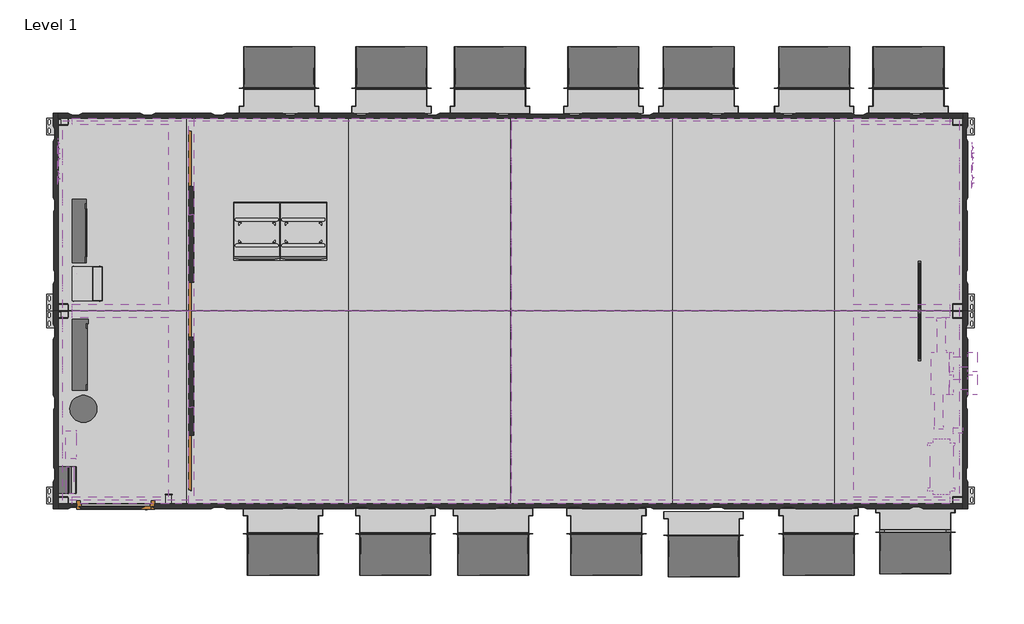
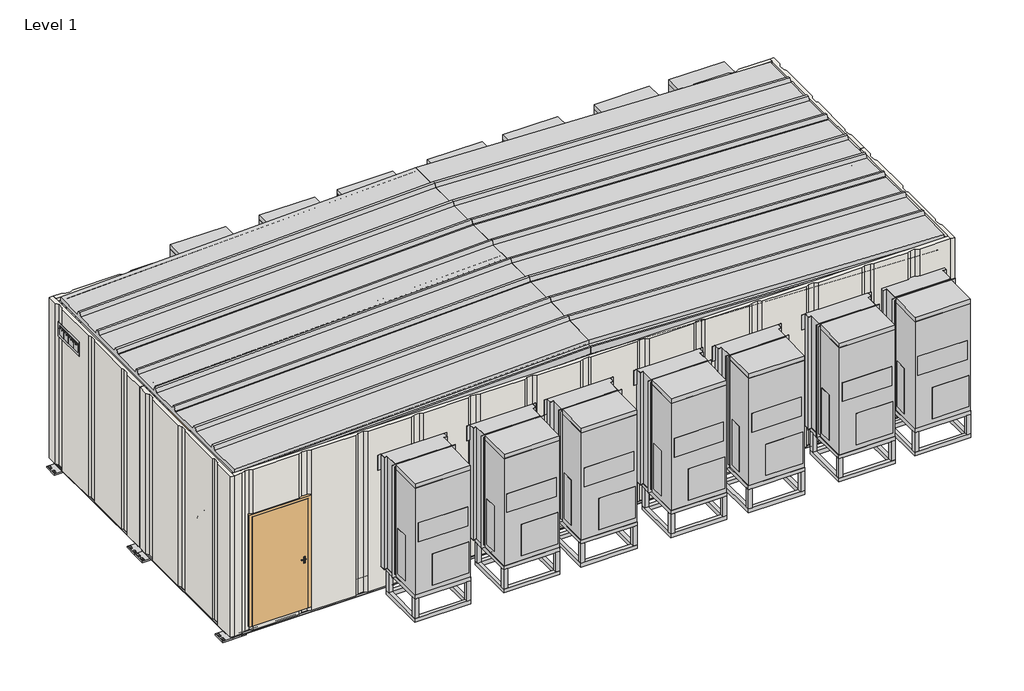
# One storey, incomplete: 33 proxies, 12 walls, 6 beams, 5 doors, 1 alarm.
"""IFC4 building model written with IfcOpenShell, lengths in millimetres."""

from ifc_helpers import new_model, si_unit, origin, place, context, project, spatial, transform, mapped, element, save
from components import cylinder_16_cylinder_16_b4ece049, beam_5c8516a7, beam_2e7830ee, beam_ccb9a7fa, roof_100kw_roof_100kw_9b547386, roof_100kw_roof_100kw_5ecf8ffd, roof_support1_roof_support1_f017d751, electrical_equipment_6561f704, electrical_equipment_92dd933f, electrical_equipment_2ad6ca1a, electrical_equipment_4dcd70bd, mechanical_equipment_66c16102, mechanical_equipment_370b5d70, mechanical_equipment_16baf98c, mechanical_equipment_ff092b0d, proxy_120v_outlet_120v_outlet_fd853791, proxy_120v_outlet_120v_outlet_3833eafb, cp_100_control_panel_b2e4bc5f, climate_control_climate_control_4ab677a5, e2m_access_control_panel_e2m_access_control_panel_2f39fd12, fire_alarm_control_panel_b452572c, generator_annunciator_panel_eb6c5e21, i_line_power_distribution_panel_board_enclosure_bd4550be, i_line_power_distribution_panel_board_enclosure_2e56ea56, modular_battery_cabinet_wide_c1eef21c, type_1_93768ecd, type_1_ab716bc1, type_1_70e9cce0, type_1_70f3e7dd, door_5ed18baa, door_f1603644, default_e111a01f, walls_1_walls_2_f8d973cd, walls_10_walls_2_f5bd905f, walls_11_walls_2_229b7b54, walls_12_walls_2_642f7b6c, walls_2_walls_2_6d3ed5f8, walls_3_walls_2_6919044b, walls_5_walls_2_f4ec63fe, walls_7_walls_2_4189c416, walls_8_walls_2_894dc8dd, walls_9_walls_2_d23d17f2

model = new_model("IFC4")

# Units and contexts
model_context = context("Model", 3, world=origin())
ifc_project = project(units=[si_unit("LENGTHUNIT", "METRE", prefix="MILLI")], contexts=[model_context])

# Site, building, storey
site = spatial("IfcSite", under=ifc_project)
building = spatial("IfcBuilding", under=site)
storey = spatial("IfcBuildingStorey", under=building, Name="Level 1", Elevation=0.0)

# Alarm
placement = place(None, origin())
cylinder_16_cylinder_16_shape = cylinder_16_cylinder_16_b4ece049(model_context)
element("IfcAlarm", 1, ObjectType="Cylinder_16 : Cylinder_16", at=placement, inside=storey, context=model_context, shape_type="MappedRepresentation", body=[
    mapped(cylinder_16_cylinder_16_shape, transform((5831.1164082, 3581.3058616, 34.3988025), x_axis=(1.0, 0.0, 0.0), y_axis=(0.0, 1.0, 0.0), z_axis=(0.0, 0.0, 1.0))),
])

# Beams
beam_shape = beam_5c8516a7(model_context)
beam_2_shape = beam_2e7830ee(model_context)
beam_3_shape = beam_ccb9a7fa(model_context)
element("IfcBeam", 2, ObjectType="Container_Frame1_Revised : Container_Frame1_Revised", at=placement, inside=storey, context=model_context, shape_type="MappedRepresentation", body=[
    mapped(beam_shape, transform((12256.3164082, 5031.8127887, 0.0), x_axis=(1.0, 0.0, 0.0), y_axis=(0.0, 1.0, 0.0), z_axis=(0.0, 0.0, 1.0))),
    mapped(beam_2_shape, transform((12256.3164082, 5031.8127887, 0.0), x_axis=(1.0, 0.0, 0.0), y_axis=(0.0, 1.0, 0.0), z_axis=(0.0, 0.0, 1.0))),
    mapped(beam_3_shape, transform((12256.3164082, 5031.8127887, 0.0), x_axis=(1.0, 0.0, 0.0), y_axis=(0.0, 1.0, 0.0), z_axis=(0.0, 0.0, 1.0))),
])
element("IfcBeam", 3, ObjectType="Container_Frame1_Revised : Container_Frame1_Revised", at=placement, inside=storey, context=model_context, shape_type="MappedRepresentation", body=[
    mapped(beam_shape, transform((12256.3164082, 7931.8127887, 0.0), x_axis=(1.0, 0.0, 0.0), y_axis=(0.0, 1.0, 0.0), z_axis=(0.0, 0.0, 1.0))),
    mapped(beam_2_shape, transform((12256.3164082, 7931.8127887, 0.0), x_axis=(1.0, 0.0, 0.0), y_axis=(0.0, 1.0, 0.0), z_axis=(0.0, 0.0, 1.0))),
    mapped(beam_3_shape, transform((12256.3164082, 7931.8127887, 0.0), x_axis=(1.0, 0.0, 0.0), y_axis=(0.0, 1.0, 0.0), z_axis=(0.0, 0.0, 1.0))),
])
roof_100kw_roof_100kw_shape = roof_100kw_roof_100kw_9b547386(model_context)
element("IfcBeam", 4, ObjectType="Roof_100kW : Roof_100kW", at=placement, inside=storey, context=model_context, shape_type="MappedRepresentation", body=[
    mapped(roof_100kw_roof_100kw_shape, transform((12264.2164082, 4967.1069181, 91.3512814), x_axis=(1.0, 0.0, 0.0), y_axis=(0.0, 1.0, 0.0), z_axis=(0.0, 0.0, 1.0))),
])
roof_100kw_roof_100kw_2_shape = roof_100kw_roof_100kw_5ecf8ffd(model_context)
element("IfcBeam", 5, ObjectType="Roof_100kW : Roof_100kW", at=placement, inside=storey, context=model_context, shape_type="MappedRepresentation", body=[
    mapped(roof_100kw_roof_100kw_2_shape, transform((12264.4164082, 4967.1069181, 91.3512814), x_axis=(-1.0, 0.0, 0.0), y_axis=(0.0, -1.0, 0.0), z_axis=(0.0, 0.0, 1.0))),
])
roof_support1_roof_support1_shape = roof_support1_roof_support1_f017d751(model_context)
element("IfcBeam", 6, ObjectType="Roof_support1 : Roof_support1", at=placement, inside=storey, context=model_context, shape_type="MappedRepresentation", body=[
    mapped(roof_support1_roof_support1_shape, transform((12264.3164082, 5031.8127887, 0.0), x_axis=(1.0, 0.0, 0.0), y_axis=(0.0, 1.0, 0.0), z_axis=(0.0, 0.0, 1.0))),
])
element("IfcBeam", 7, ObjectType="Roof_support1 : Roof_support1", at=placement, inside=storey, context=model_context, shape_type="MappedRepresentation", body=[
    mapped(roof_support1_roof_support1_shape, transform((12264.3164082, 7931.8190632, 0.0), x_axis=(1.0, 0.0, 0.0), y_axis=(0.0, 1.0, 0.0), z_axis=(0.0, 0.0, 1.0))),
])

# Proxies
electrical_equipment_shape = electrical_equipment_6561f704(model_context)
electrical_equipment_2_shape = electrical_equipment_92dd933f(model_context)
electrical_equipment_3_shape = electrical_equipment_2ad6ca1a(model_context)
element("IfcBuildingElementProxy", 8, Name="TRF2 - 480V-208Vor 120V_ Step_down_transformer_BIM_Model : TRF2 - 480V-208Vor 120V_ Step_down_transformer_BIM_Model", ObjectType="TRF2 - 480V-208Vor 120V_ Step_down_transformer_BIM_Model : TRF2 - 480V-208Vor 120V_ Step_down_transformer_BIM_Model", at=placement, inside=storey, context=model_context, shape_type="MappedRepresentation", body=[
    mapped(electrical_equipment_shape, transform((5885.7968853, 5462.8209707, 336.5252864), x_axis=(0.0, 1.0000000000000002, 0.0), y_axis=(-1.0000000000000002, 0.0, 0.0), z_axis=(0.0, 0.0, 1.0))),
    mapped(electrical_equipment_2_shape, transform((5885.7968853, 5462.8209707, 336.5252864), x_axis=(0.0, 1.0000000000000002, 0.0), y_axis=(-1.0000000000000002, 0.0, 0.0), z_axis=(0.0, 0.0, 1.0))),
    mapped(electrical_equipment_3_shape, transform((5885.7968853, 5462.8209707, 336.5252864), x_axis=(0.0, 1.0000000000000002, 0.0), y_axis=(-1.0000000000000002, 0.0, 0.0), z_axis=(0.0, 0.0, 1.0))),
])
electrical_equipment_4_shape = electrical_equipment_4dcd70bd(model_context)
element("IfcBuildingElementProxy", 9, Name="Distribution_Sockets_2 : Distribution_Sockets_2", ObjectType="Distribution_Sockets_2 : Distribution_Sockets_2", at=placement, inside=storey, context=model_context, shape_type="MappedRepresentation", body=[
    mapped(electrical_equipment_4_shape, transform((19137.2794744, 7210.0771904, 2931.7817165), x_axis=(1.0, 0.0, 0.0), y_axis=(0.0, 1.0, 0.0), z_axis=(0.0, 0.0, 1.0))),
])
element("IfcBuildingElementProxy", 10, Name="Distribution_Sockets_2 : Distribution_Sockets_2", ObjectType="Distribution_Sockets_2 : Distribution_Sockets_2", at=placement, inside=storey, context=model_context, shape_type="MappedRepresentation", body=[
    mapped(electrical_equipment_4_shape, transform((5386.6323275, 7272.5917434, 2960.3752741), x_axis=(1.0, 0.0, 0.0), y_axis=(0.0, 1.0, 0.0), z_axis=(0.0, 0.0, 1.0))),
])
mechanical_equipment_shape = mechanical_equipment_66c16102(model_context)
element("IfcBuildingElementProxy", 11, Name="Dehumidifier2 : Dehumidifier2", ObjectType="Dehumidifier2 : Dehumidifier2", at=placement, inside=storey, context=model_context, shape_type="MappedRepresentation", body=[
    mapped(mechanical_equipment_shape, transform((18943.2323917, 2708.1721908, 2500.0), x_axis=(0.0, 1.0, 0.0), y_axis=(-1.0, 0.0, 0.0), z_axis=(0.0, 0.0, 1.0))),
])
mechanical_equipment_2_shape = mechanical_equipment_370b5d70(model_context)
mechanical_equipment_3_shape = mechanical_equipment_16baf98c(model_context)
element("IfcBuildingElementProxy", 12, Name="config9_Ccontainment_1 : config9_Ccontainment_1", ObjectType="config9_Ccontainment_1 : config9_Ccontainment_1", at=placement, inside=storey, context=model_context, shape_type="MappedRepresentation", body=[
    mapped(mechanical_equipment_2_shape, transform((12254.5549624, 5676.0200515, 68.4152043), x_axis=(1.0, 0.0, 0.0), y_axis=(0.0, 1.0, 0.0), z_axis=(0.0, 0.0, 1.0))),
    mapped(mechanical_equipment_3_shape, transform((12254.5549624, 5676.0200515, 68.4152043), x_axis=(1.0, 0.0, 0.0), y_axis=(0.0, 1.0, 0.0), z_axis=(0.0, 0.0, 1.0))),
])
mechanical_equipment_4_shape = mechanical_equipment_ff092b0d(model_context)
element("IfcBuildingElementProxy", 13, Name="Energy_Recovery_Ventilator_ERVH100SE : ERVH100SE", ObjectType="Energy_Recovery_Ventilator_ERVH100SE : ERVH100SE", at=placement, inside=storey, context=model_context, shape_type="MappedRepresentation", body=[
    mapped(mechanical_equipment_4_shape, transform((18855.7840716, 4115.6498737, 2500.0), x_axis=(0.0, 1.0, 0.0), y_axis=(-1.0, 0.0, 0.0), z_axis=(0.0, 0.0, 1.0))),
])
proxy_120v_outlet_120v_outlet_shape = proxy_120v_outlet_120v_outlet_fd853791(model_context)
element("IfcBuildingElementProxy", 14, Name="120V Outlet : 120V Outlet", ObjectType="120V Outlet : 120V Outlet", at=placement, inside=storey, context=model_context, shape_type="MappedRepresentation", body=[
    mapped(proxy_120v_outlet_120v_outlet_shape, transform((7113.9835737, 2116.9008483, -1382.0755609), x_axis=(1.0, 0.0, 0.0), y_axis=(0.0, 1.0, 0.0), z_axis=(0.0, 0.0, 1.0))),
])
proxy_120v_outlet_120v_outlet_2_shape = proxy_120v_outlet_120v_outlet_3833eafb(model_context)
element("IfcBuildingElementProxy", 15, Name="120V Outlet : 120V Outlet", ObjectType="120V Outlet : 120V Outlet", at=placement, inside=storey, context=model_context, shape_type="MappedRepresentation", body=[
    mapped(proxy_120v_outlet_120v_outlet_2_shape, transform((19094.8584486, 3253.9033672, 942.9244391), x_axis=(0.0, 1.0, 0.0), y_axis=(-1.0, 0.0, 0.0), z_axis=(0.0, 0.0, 1.0))),
])
cp_100_control_panel_shape = cp_100_control_panel_b2e4bc5f(model_context)
element("IfcBuildingElementProxy", 16, Name="CP-100_Control_Panel_Wallmount_BIM_Model : CP-100 Control panel", ObjectType="CP-100_Control_Panel_Wallmount_BIM_Model : CP-100 Control panel", at=placement, inside=storey, context=model_context, shape_type="MappedRepresentation", body=[
    mapped(cp_100_control_panel_shape, transform((5418.747087, 2635.3595969, 620.0), x_axis=(0.0, -1.0, 0.0), y_axis=(1.0, 0.0, 0.0), z_axis=(0.0, 0.0, 1.0))),
])
climate_control_climate_control_shape = climate_control_climate_control_4ab677a5(model_context)
element("IfcBuildingElementProxy", 17, Name="Climate Control : Climate Control", ObjectType="Climate Control : Climate Control", at=placement, inside=storey, context=model_context, shape_type="MappedRepresentation", body=[
    mapped(climate_control_climate_control_shape, transform((19059.8378159, 4135.7787134, 2500.0), x_axis=(0.0, 1.0000000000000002, 0.0), y_axis=(-1.0000000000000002, 0.0, 0.0), z_axis=(0.0, 0.0, 1.0))),
])
element("IfcBuildingElementProxy", 18, Name="Climate Control : Climate Control", ObjectType="Climate Control : Climate Control", at=placement, inside=storey, context=model_context, shape_type="MappedRepresentation", body=[
    mapped(climate_control_climate_control_shape, transform((19059.8378159, 3795.7787134, 2500.0), x_axis=(0.0, 1.0000000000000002, 0.0), y_axis=(-1.0000000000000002, 0.0, 0.0), z_axis=(0.0, 0.0, 1.0))),
])
e2m_access_control_panel_e2m_access_control_panel_shape = e2m_access_control_panel_e2m_access_control_panel_2f39fd12(model_context)
element("IfcBuildingElementProxy", 19, Name="E2M_Access_Control_Panel : E2M-Access Control Panel", ObjectType="E2M_Access_Control_Panel : E2M-Access Control Panel", at=placement, inside=storey, context=model_context, shape_type="MappedRepresentation", body=[
    mapped(e2m_access_control_panel_e2m_access_control_panel_shape, transform((5418.747087, 2510.3595969, 758.1066268), x_axis=(0.0, -1.0, 0.0), y_axis=(1.0, 0.0, 0.0), z_axis=(0.0, 0.0, 1.0))),
])
fire_alarm_control_panel_shape = fire_alarm_control_panel_b452572c(model_context)
element("IfcBuildingElementProxy", 20, Name="Fire_Alarm_Control_Panel_Wallmount_BIM_Model : Fire Alarm Control Panel", ObjectType="Fire_Alarm_Control_Panel_Wallmount_BIM_Model : Fire Alarm Control Panel", at=placement, inside=storey, context=model_context, shape_type="MappedRepresentation", body=[
    mapped(fire_alarm_control_panel_shape, transform((5417.9743679, 3166.3058616, 900.0), x_axis=(0.0, -1.0, 0.0), y_axis=(1.0, 0.0, 0.0), z_axis=(0.0, 0.0, 1.0))),
])
generator_annunciator_panel_shape = generator_annunciator_panel_eb6c5e21(model_context)
element("IfcBuildingElementProxy", 21, Name="Generator_Annunciator_Panel_Wallmount_BIM_Model_Revised : Generator Annunciator Panel", ObjectType="Generator_Annunciator_Panel_Wallmount_BIM_Model_Revised : Generator Annunciator Panel", at=placement, inside=storey, context=model_context, shape_type="MappedRepresentation", body=[
    mapped(generator_annunciator_panel_shape, transform((5418.747087, 2635.3595969, 0.0), x_axis=(0.0, -1.0, 0.0), y_axis=(1.0, 0.0, 0.0), z_axis=(0.0, 0.0, 1.0))),
])
i_line_power_distribution_panel_board_enclosure_shape = i_line_power_distribution_panel_board_enclosure_bd4550be(model_context)
element("IfcBuildingElementProxy", 22, Name="I-Line_Power_Distribution_Panel_Board_Enclosure_MDP-100_BIM_Model : I-Line Power Distribution Panel Board Enclosure", ObjectType="I-Line_Power_Distribution_Panel_Board_Enclosure_MDP-100_BIM_Model : I-Line Power Distribution Panel Board Enclosure", at=placement, inside=storey, context=model_context, shape_type="MappedRepresentation", body=[
    mapped(i_line_power_distribution_panel_board_enclosure_shape, transform((5771.7164082, 6257.2026747, 337.0), x_axis=(0.0, 1.0000000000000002, 0.0), y_axis=(-1.0000000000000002, 0.0, 0.0), z_axis=(0.0, 0.0, 1.0))),
])
i_line_power_distribution_panel_board_enclosure_2_shape = i_line_power_distribution_panel_board_enclosure_2e56ea56(model_context)
element("IfcBuildingElementProxy", 23, Name="I-Line_Power_Distribution_Panel_Board_Enclosure_800Amps_BIM_Model : I-Line Power Distribution Panel Board Enclosure", ObjectType="I-Line_Power_Distribution_Panel_Board_Enclosure_800Amps_BIM_Model : I-Line Power Distribution Panel Board Enclosure", at=placement, inside=storey, context=model_context, shape_type="MappedRepresentation", body=[
    mapped(i_line_power_distribution_panel_board_enclosure_2_shape, transform((5783.5125168, 4393.8058616, 365.4757813), x_axis=(0.0, 1.0, 0.0), y_axis=(-1.0, 0.0, 0.0), z_axis=(0.0, 0.0, 1.0))),
])
modular_battery_cabinet_wide_shape = modular_battery_cabinet_wide_c1eef21c(model_context)
element("IfcBuildingElementProxy", 24, Name="Modular_Battery_Cabinet_Wide_Galaxy_VM_Schneider_Electric_BIM_Model : Modular Battery Cabinet - Wide", ObjectType="Modular_Battery_Cabinet_Wide_Galaxy_VM_Schneider_Electric_BIM_Model : Modular Battery Cabinet - Wide", at=placement, inside=storey, context=model_context, shape_type="MappedRepresentation", body=[
    mapped(modular_battery_cabinet_wide_shape, transform((9139.5626762, 6259.7159467, 337.0), x_axis=(1.0, 0.0, 0.0), y_axis=(0.0, 1.0, 0.0), z_axis=(0.0, 0.0, 1.0))),
])
element("IfcBuildingElementProxy", 25, Name="Modular_Battery_Cabinet_Wide_Galaxy_VM_Schneider_Electric_BIM_Model : Modular Battery Cabinet - Wide", ObjectType="Modular_Battery_Cabinet_Wide_Galaxy_VM_Schneider_Electric_BIM_Model : Modular Battery Cabinet - Wide", at=placement, inside=storey, context=model_context, shape_type="MappedRepresentation", body=[
    mapped(modular_battery_cabinet_wide_shape, transform((8439.5626762, 6259.7159467, 337.0), x_axis=(1.0, 0.0, 0.0), y_axis=(0.0, 1.0, 0.0), z_axis=(0.0, 0.0, 1.0))),
])
type_1_shape = type_1_93768ecd(model_context)
element("IfcBuildingElementProxy", 26, Name="Uniflair_WMF0661_with_wallmountframe_and_Floorstand_BIM_Model : Type 1", ObjectType="Uniflair_WMF0661_with_wallmountframe_and_Floorstand_BIM_Model : Type 1", at=placement, inside=storey, context=model_context, shape_type="MappedRepresentation", body=[
    mapped(type_1_shape, transform((18244.2617869, 7990.4665448, -225.0), x_axis=(1.0, 0.0, 0.0), y_axis=(0.0, 1.0, 0.0), z_axis=(0.0, 0.0, 1.0))),
])
element("IfcBuildingElementProxy", 27, Name="Uniflair_WMF0661_with_wallmountframe_and_Floorstand_BIM_Model : Type 1", ObjectType="Uniflair_WMF0661_with_wallmountframe_and_Floorstand_BIM_Model : Type 1", at=placement, inside=storey, context=model_context, shape_type="MappedRepresentation", body=[
    mapped(type_1_shape, transform((16826.331273, 7990.4665448, -225.0), x_axis=(1.0, 0.0, 0.0), y_axis=(0.0, 1.0, 0.0), z_axis=(0.0, 0.0, 1.0))),
])
element("IfcBuildingElementProxy", 28, Name="Uniflair_WMF0661_with_wallmountframe_and_Floorstand_BIM_Model : Type 1", ObjectType="Uniflair_WMF0661_with_wallmountframe_and_Floorstand_BIM_Model : Type 1", at=placement, inside=storey, context=model_context, shape_type="MappedRepresentation", body=[
    mapped(type_1_shape, transform((15087.3984878, 7990.4665448, -224.0), x_axis=(1.0, 0.0, 0.0), y_axis=(0.0, 1.0, 0.0), z_axis=(0.0, 0.0, 1.0))),
])
element("IfcBuildingElementProxy", 29, Name="Uniflair_WMF0661_with_wallmountframe_and_Floorstand_BIM_Model : Type 1", ObjectType="Uniflair_WMF0661_with_wallmountframe_and_Floorstand_BIM_Model : Type 1", at=placement, inside=storey, context=model_context, shape_type="MappedRepresentation", body=[
    mapped(type_1_shape, transform((13654.7126478, 7990.4665448, -225.0), x_axis=(1.0, 0.0, 0.0), y_axis=(0.0, 1.0, 0.0), z_axis=(0.0, 0.0, 1.0))),
])
element("IfcBuildingElementProxy", 30, Name="Uniflair_WMF0661_with_wallmountframe_and_Floorstand_BIM_Model : Type 1", ObjectType="Uniflair_WMF0661_with_wallmountframe_and_Floorstand_BIM_Model : Type 1", at=placement, inside=storey, context=model_context, shape_type="MappedRepresentation", body=[
    mapped(type_1_shape, transform((11948.2824547, 7990.4665448, -225.0), x_axis=(1.0, 0.0, 0.0), y_axis=(0.0, 1.0, 0.0), z_axis=(0.0, 0.0, 1.0))),
])
element("IfcBuildingElementProxy", 31, Name="Uniflair_WMF0661_with_wallmountframe_and_Floorstand_BIM_Model : Type 1", ObjectType="Uniflair_WMF0661_with_wallmountframe_and_Floorstand_BIM_Model : Type 1", at=placement, inside=storey, context=model_context, shape_type="MappedRepresentation", body=[
    mapped(type_1_shape, transform((10463.6789702, 7990.4665448, -225.0), x_axis=(1.0, 0.0, 0.0), y_axis=(0.0, 1.0, 0.0), z_axis=(0.0, 0.0, 1.0))),
])
element("IfcBuildingElementProxy", 32, Name="Uniflair_WMF0661_with_wallmountframe_and_Floorstand_BIM_Model : Type 1", ObjectType="Uniflair_WMF0661_with_wallmountframe_and_Floorstand_BIM_Model : Type 1", at=placement, inside=storey, context=model_context, shape_type="MappedRepresentation", body=[
    mapped(type_1_shape, transform((8775.014528, 7990.4665448, -225.0), x_axis=(1.0, 0.0, 0.0), y_axis=(0.0, 1.0, 0.0), z_axis=(0.0, 0.0, 1.0))),
])
element("IfcBuildingElementProxy", 33, Name="Uniflair_WMF0661_with_wallmountframe_and_Floorstand_BIM_Model : Type 1", ObjectType="Uniflair_WMF0661_with_wallmountframe_and_Floorstand_BIM_Model : Type 1", at=placement, inside=storey, context=model_context, shape_type="MappedRepresentation", body=[
    mapped(type_1_shape, transform((16893.5164082, 2117.1451784, -225.0), x_axis=(-1.0, 0.0, 0.0), y_axis=(0.0, -1.0, 0.0), z_axis=(0.0, 0.0, 1.0))),
])
element("IfcBuildingElementProxy", 34, Name="Uniflair_WMF0661_with_wallmountframe_and_Floorstand_BIM_Model : Type 1", ObjectType="Uniflair_WMF0661_with_wallmountframe_and_Floorstand_BIM_Model : Type 1", at=placement, inside=storey, context=model_context, shape_type="MappedRepresentation", body=[
    mapped(type_1_shape, transform((13697.8440377, 2117.1451784, -225.0), x_axis=(-1.0, 0.0, 0.0), y_axis=(0.0, -1.0, 0.0), z_axis=(0.0, 0.0, 1.0))),
])
element("IfcBuildingElementProxy", 35, Name="Uniflair_WMF0661_with_wallmountframe_and_Floorstand_BIM_Model : Type 1", ObjectType="Uniflair_WMF0661_with_wallmountframe_and_Floorstand_BIM_Model : Type 1", at=placement, inside=storey, context=model_context, shape_type="MappedRepresentation", body=[
    mapped(type_1_shape, transform((11994.6501854, 2117.1451784, -220.0), x_axis=(-1.0, 0.0, 0.0), y_axis=(0.0, -1.0, 0.0), z_axis=(0.0, 0.0, 1.0))),
])
element("IfcBuildingElementProxy", 36, Name="Uniflair_WMF0661_with_wallmountframe_and_Floorstand_BIM_Model : Type 1", ObjectType="Uniflair_WMF0661_with_wallmountframe_and_Floorstand_BIM_Model : Type 1", at=placement, inside=storey, context=model_context, shape_type="MappedRepresentation", body=[
    mapped(type_1_shape, transform((8834.3883462, 2117.1451784, -225.0), x_axis=(-1.0, 0.0, 0.0), y_axis=(0.0, -1.0, 0.0), z_axis=(0.0, 0.0, 1.0))),
])
element("IfcBuildingElementProxy", 37, Name="Uniflair_WMF0661_with_wallmountframe_and_Floorstand_BIM_Model : Type 1", ObjectType="Uniflair_WMF0661_with_wallmountframe_and_Floorstand_BIM_Model : Type 1", at=placement, inside=storey, context=model_context, shape_type="MappedRepresentation", body=[
    mapped(type_1_shape, transform((10524.1201687, 2117.1451784, -225.0), x_axis=(-1.0, 0.0, 0.0), y_axis=(0.0, -1.0, 0.0), z_axis=(0.0, 0.0, 1.0))),
])
type_1_2_shape = type_1_ab716bc1(model_context)
element("IfcBuildingElementProxy", 38, Name="Uniflair_WMF0661_with_wallmountframe_and_Floorstand_BIM_Model : Type 1", ObjectType="Uniflair_WMF0661_with_wallmountframe_and_Floorstand_BIM_Model : Type 1", at=placement, inside=storey, context=model_context, shape_type="MappedRepresentation", body=[
    mapped(type_1_2_shape, transform((18346.7796297, 2140.2468032, -225.0), x_axis=(-1.0, 0.0, 0.0), y_axis=(0.0, -1.0, 0.0), z_axis=(0.0, 0.0, 1.0))),
])
type_1_3_shape = type_1_70e9cce0(model_context)
element("IfcBuildingElementProxy", 39, Name="Uniflair_WMF0661_with_wallmountframe_and_Floorstand_BIM_Model : Type 1", ObjectType="Uniflair_WMF0661_with_wallmountframe_and_Floorstand_BIM_Model : Type 1", at=placement, inside=storey, context=model_context, shape_type="MappedRepresentation", body=[
    mapped(type_1_3_shape, transform((15161.2122278, 2094.3218415, -224.0), x_axis=(-1.0, 0.0, 0.0), y_axis=(0.0, -1.0, 0.0), z_axis=(0.0, 0.0, 1.0))),
])
type_1_4_shape = type_1_70f3e7dd(model_context)
element("IfcBuildingElementProxy", 40, Name="PDB-200 - 208V_OR_120V_Distribution_Panel_Wallmount_BIM_Model : Type 1", ObjectType="PDB-200 - 208V_OR_120V_Distribution_Panel_Wallmount_BIM_Model : Type 1", at=placement, inside=storey, context=model_context, shape_type="MappedRepresentation", body=[
    mapped(type_1_4_shape, transform((5729.112132, 5463.6441499, 118.9335356), x_axis=(0.0, -1.0, 0.0), y_axis=(1.0, 0.0, 0.0), z_axis=(0.0, 0.0, 1.0))),
])

# Doors
door_shape = door_5ed18baa(model_context)
element("IfcDoor", 41, ObjectType="Door_Steel_Republic_Single-DoubleRabbet-Equal : ByType", at=placement, inside=storey, context=model_context, shape_type="MappedRepresentation", body=[
    mapped(door_shape, transform((7900.157105, 1270.391338, 200.4127429), x_axis=(-1.0, 0.0, 0.0), y_axis=(0.0, -1.0, 0.0), z_axis=(0.0, 0.0, 1.0))),
])
door_2_shape = door_f1603644(model_context)
element("IfcDoor", 42, ObjectType="DoorPanel_Steel_Republic_F : DoorPanel_Steel_Republic_F", at=placement, inside=storey, context=model_context, shape_type="MappedRepresentation", body=[
    mapped(door_2_shape, transform((6318.0664082, 2090.2573818, 200.4127429), x_axis=(-1.0, 0.0, 0.0), y_axis=(0.0, -1.0, 0.0), z_axis=(0.0, 0.0, 1.0))),
])
default_shape = default_e111a01f(model_context)
element("IfcDoor", 43, ObjectType="Panel_FIN_40D_Rebated_Glazed_05 : default", at=placement, inside=storey, context=model_context, shape_type="MappedRepresentation", body=[
    mapped(default_shape, transform((7413.9835737, 7347.3182846, 330.5252864), x_axis=(0.0, 1.0, 0.0), y_axis=(-1.0, 0.0, 0.0), z_axis=(0.0, 0.0, 1.0))),
])
element("IfcDoor", 44, ObjectType="Panel_FIN_40D_Rebated_Glazed_05 : default", at=placement, inside=storey, context=model_context, shape_type="MappedRepresentation", body=[
    mapped(default_shape, transform((7453.9835737, 5072.5522128, 336.5252864), x_axis=(0.0, -1.0, 0.0), y_axis=(1.0, 0.0, 0.0), z_axis=(0.0, 0.0, 1.0))),
])
element("IfcDoor", 45, ObjectType="Panel_FIN_40D_Rebated_Glazed_05 : default", at=placement, inside=storey, context=model_context, shape_type="MappedRepresentation", body=[
    mapped(default_shape, transform((7453.9835737, 2772.5522128, 336.5252864), x_axis=(0.0, -1.0, 0.0), y_axis=(1.0, 0.0, 0.0), z_axis=(0.0, 0.0, 1.0))),
])

# Walls
walls_1_walls_2_shape = walls_1_walls_2_f8d973cd(model_context)
element("IfcWall", 46, ObjectType="Walls 1 : Walls 2", at=placement, inside=storey, context=model_context, shape_type="MappedRepresentation", body=[
    mapped(walls_1_walls_2_shape, transform((0.0, -539.3452837, -220.0), x_axis=(1.0, 0.0, 0.0), y_axis=(0.0, 1.0, 0.0), z_axis=(0.0, 0.0, 1.0))),
])
walls_10_walls_2_shape = walls_10_walls_2_f5bd905f(model_context)
element("IfcWall", 47, ObjectType="Walls 10 : Walls 2", at=placement, inside=storey, context=model_context, shape_type="MappedRepresentation", body=[
    mapped(walls_10_walls_2_shape, transform((-1685.8559268, 0.0, 0.0), x_axis=(1.0, 0.0, 0.0), y_axis=(0.0, 1.0, 0.0), z_axis=(0.0, 0.0, 1.0))),
])
walls_11_walls_2_shape = walls_11_walls_2_229b7b54(model_context)
element("IfcWall", 48, ObjectType="Walls 11 : Walls 2", at=placement, inside=storey, context=model_context, shape_type="MappedRepresentation", body=[
    mapped(walls_11_walls_2_shape, transform((0.0, 0.0, 2003.3500121), x_axis=(1.0, 0.0, 0.0), y_axis=(0.0, 1.0, 0.0), z_axis=(0.0, 0.0, 1.0))),
])
walls_12_walls_2_shape = walls_12_walls_2_642f7b6c(model_context)
element("IfcWall", 49, ObjectType="Walls 12 : Walls 2", at=placement, inside=storey, context=model_context, shape_type="MappedRepresentation", body=[
    mapped(walls_12_walls_2_shape, transform((0.0, 0.0, 2003.3500121), x_axis=(1.0, 0.0, 0.0), y_axis=(0.0, 1.0, 0.0), z_axis=(0.0, 0.0, 1.0))),
])
walls_2_walls_2_shape = walls_2_walls_2_6d3ed5f8(model_context)
element("IfcWall", 50, ObjectType="Walls 2 : Walls 2", at=placement, inside=storey, context=model_context, shape_type="MappedRepresentation", body=[
    mapped(walls_2_walls_2_shape, transform((0.0, 539.3452837, -220.0), x_axis=(1.0, 0.0, 0.0), y_axis=(0.0, 1.0, 0.0), z_axis=(0.0, 0.0, 1.0))),
])
walls_3_walls_2_shape = walls_3_walls_2_6919044b(model_context)
element("IfcWall", 51, ObjectType="Walls 3 : Walls 2", at=placement, inside=storey, context=model_context, shape_type="MappedRepresentation", body=[
    mapped(walls_3_walls_2_shape, transform((1056.4019457, 0.0, 0.0), x_axis=(1.0, 0.0, 0.0), y_axis=(0.0, 1.0, 0.0), z_axis=(0.0, 0.0, 1.0))),
])
element("IfcWall", 52, ObjectType="Walls 4 : Walls 2", at=placement, inside=storey, context=model_context, shape_type="MappedRepresentation", body=[
    mapped(walls_3_walls_2_shape, transform((1056.4019457, -2977.5234803, 0.0), x_axis=(1.0, 0.0, 0.0), y_axis=(0.0, 1.0, 0.0), z_axis=(0.0, 0.0, 1.0))),
])
walls_5_walls_2_shape = walls_5_walls_2_f4ec63fe(model_context)
element("IfcWall", 53, ObjectType="Walls 5 : Walls 2", at=placement, inside=storey, context=model_context, shape_type="MappedRepresentation", body=[
    mapped(walls_5_walls_2_shape, transform((-1072.2019457, 0.0, 0.0), x_axis=(1.0, 0.0, 0.0), y_axis=(0.0, 1.0, 0.0), z_axis=(0.0, 0.0, 1.0))),
])
element("IfcWall", 54, ObjectType="Walls 6 : Walls 2", at=placement, inside=storey, context=model_context, shape_type="MappedRepresentation", body=[
    mapped(walls_5_walls_2_shape, transform((-1072.2019457, -2977.5234803, 0.0), x_axis=(1.0, 0.0, 0.0), y_axis=(0.0, 1.0, 0.0), z_axis=(0.0, 0.0, 1.0))),
])
walls_7_walls_2_shape = walls_7_walls_2_4189c416(model_context)
element("IfcWall", 55, ObjectType="Walls 7 : Walls 2", at=placement, inside=storey, context=model_context, shape_type="MappedRepresentation", body=[
    mapped(walls_7_walls_2_shape, transform((0.0, 0.0, 0.0), x_axis=(1.0, 0.0, 0.0), y_axis=(0.0, 1.0, 0.0), z_axis=(0.0, 0.0, 1.0))),
])
walls_8_walls_2_shape = walls_8_walls_2_894dc8dd(model_context)
element("IfcWall", 56, ObjectType="Walls 8 : Walls 2", at=placement, inside=storey, context=model_context, shape_type="MappedRepresentation", body=[
    mapped(walls_8_walls_2_shape, transform((0.0, 2300.0, 2003.3500121), x_axis=(1.0, 0.0, 0.0), y_axis=(0.0, 1.0, 0.0), z_axis=(0.0, 0.0, 1.0))),
])
walls_9_walls_2_shape = walls_9_walls_2_d23d17f2(model_context)
element("IfcWall", 57, ObjectType="Walls 9 : Walls 2", at=placement, inside=storey, context=model_context, shape_type="MappedRepresentation", body=[
    mapped(walls_9_walls_2_shape, transform((0.0, 0.0, 0.0), x_axis=(1.0, 0.0, 0.0), y_axis=(0.0, 1.0, 0.0), z_axis=(0.0, 0.0, 1.0))),
])

save(model, "model.ifc")
